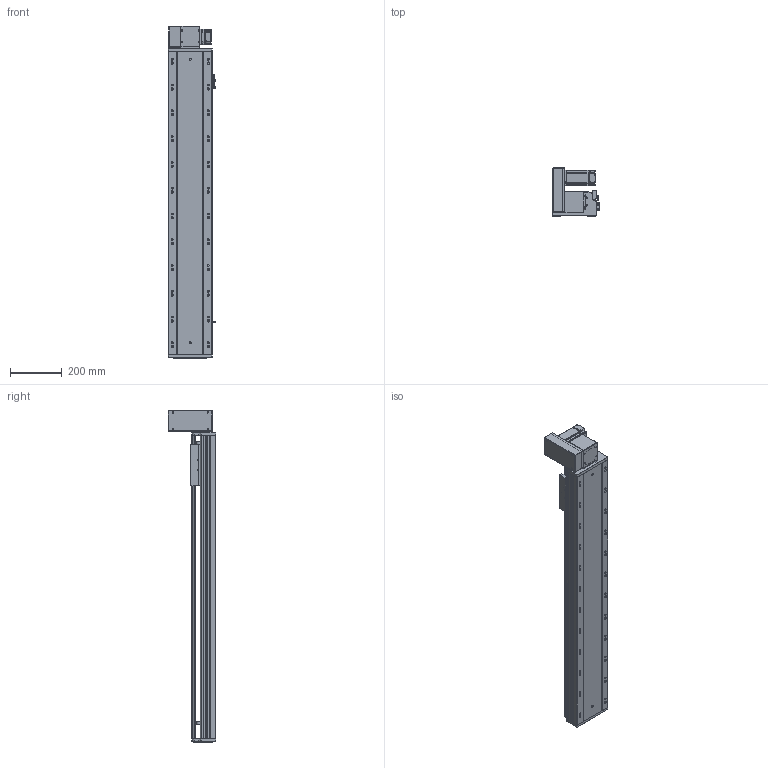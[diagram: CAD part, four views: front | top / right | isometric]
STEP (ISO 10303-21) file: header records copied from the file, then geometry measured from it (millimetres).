
FILE_DESCRIPTION (( 'STEP AP203' ), '1' );
FILE_NAME ('RY170-T-300-UL-P400W.SLDASM_900.step', '2021-03-02T02:12:42', ( '盈信电脑' ), ( '东莞市道滘镇水果街19号' ), 'SwSTEP 2.0', 'SolidWorks 2012', '' );
FILE_SCHEMA (( 'CONFIG_CONTROL_DESIGN' ));
Products named in the file (18): RY170-T-300-UL-P400W.SLDASM_900; RY170肮祭謫萇儂欶; 15; RY170-T蹟翐M4; RY170同步轮电机安装板(400W); RY170-T肮祭湍揤踡輸2; RY120-T主同步轮轴承压盖; RY170-T肮祭謫裔啣; 滅袉蝶18-10; RY170肮祭謫ヶ裔啣; RY170-T肮祭湍揤踡輸1; RY170外置感应片(200共用）; RY170翋肮祭謫釱; 覜茼ん672; RY170-T-300肮祭謫倰第裔啣-DL_900; RY170綴裔啣; RY170肮祭湍臏賑輸; RY170-T-300肮祭謫倰第菁釱-DL_900
Assembly tree (20 placements, depth 2):
  RY170-T-300-UL-P400W.SLDASM_900
    RY170-T-300肮祭謫倰第菁釱-DL_900
    RY170肮祭湍臏賑輸
    RY170-T-300肮祭謫倰第裔啣-DL_900
    RY170綴裔啣
    覜茼ん672  x3
    RY170外置感应片(200共用）
    RY170肮祭謫ヶ裔啣
    RY170翋肮祭謫釱
    RY170-T肮祭湍揤踡輸1
    RY170-T肮祭湍揤踡輸2
    RY170-T肮祭謫裔啣
    滅袉蝶18-10  x2
    RY120-T主同步轮轴承压盖
    RY170肮祭謫萇儂欶
    RY170同步轮电机安装板(400W)
    RY170-T蹟翐M4
    15
Bounding box: 183.7 x 184 x 1288 mm (x, y, z)
Volume: 6435685.9 mm3; surface area: 2179442.9 mm2
Topology: 20 solids, 20 shells, 2689 faces, 7626 edges, 4899 vertices
Faces by surface type: cylinder 1272, plane 1155, cone 232, bspline 30
Entity records: 87992 total; most frequent: CARTESIAN_POINT 20731, ORIENTED_EDGE 13904, DIRECTION 13364, EDGE_CURVE 6952, AXIS2_PLACEMENT_3D 4714, VERTEX_POINT 4567, LINE 3936, VECTOR 3936
